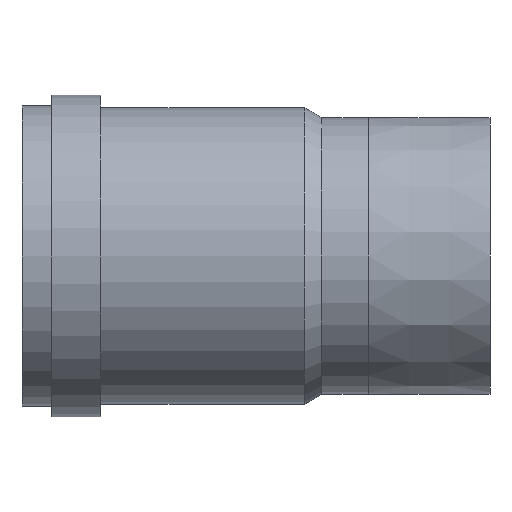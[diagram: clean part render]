
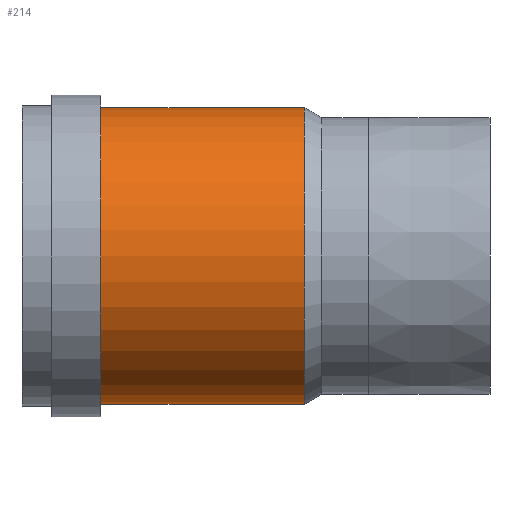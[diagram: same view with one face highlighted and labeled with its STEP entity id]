
A CAD part, front view. The second image highlights one B-rep face of the part: STEP entity #214.
In plain terms, the highlighted cylindrical face has radius 134.15 mm (diameter 268.3 mm), a full revolution.
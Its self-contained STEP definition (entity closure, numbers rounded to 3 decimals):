
#24=CYLINDRICAL_SURFACE($,#253,134.15);
#39=FACE_OUTER_BOUND($,#98,.T.);
#63=FACE_BOUND($,#99,.T.);
#98=EDGE_LOOP($,(#188));
#99=EDGE_LOOP($,(#189));
#104=CIRCLE($,#226,134.15);
#117=CIRCLE($,#252,134.15);
#122=VERTEX_POINT($,#347);
#135=VERTEX_POINT($,#386);
#140=EDGE_CURVE($,#122,#122,#104,.T.);
#153=EDGE_CURVE($,#135,#135,#117,.T.);
#188=ORIENTED_EDGE($,*,*,#140,.T.);
#189=ORIENTED_EDGE($,*,*,#153,.T.);
#214=ADVANCED_FACE($,(#39,#63),#24,.T.);
#226=AXIS2_PLACEMENT_3D($,#348,#274,#275);
#252=AXIS2_PLACEMENT_3D($,#387,#326,#327);
#253=AXIS2_PLACEMENT_3D($,#388,#328,#329);
#274=DIRECTION('center_axis',(-1.,0.,0.));
#275=DIRECTION('ref_axis',(0.,0.,1.));
#326=DIRECTION('center_axis',(1.,0.,0.));
#327=DIRECTION('ref_axis',(0.,1.,0.));
#328=DIRECTION('center_axis',(1.,0.,0.));
#329=DIRECTION('ref_axis',(0.,1.,0.));
#347=CARTESIAN_POINT('',(255.092,0.,134.15));
#348=CARTESIAN_POINT('Origin',(255.092,0.,0.));
#386=CARTESIAN_POINT('',(71.3,134.15,0.));
#387=CARTESIAN_POINT('Origin',(71.3,0.,0.));
#388=CARTESIAN_POINT('Origin',(71.35,0.,0.));
